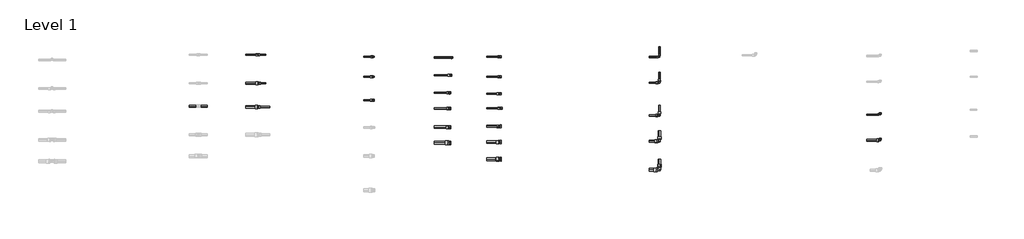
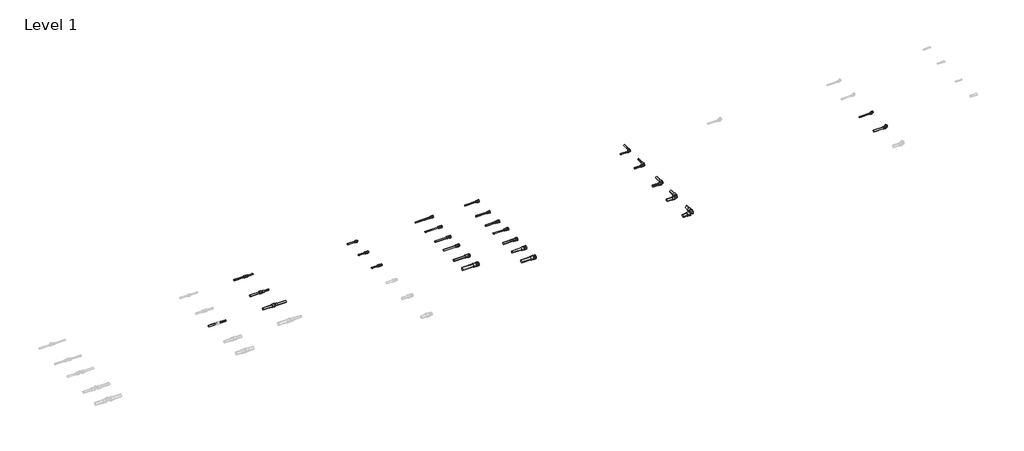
# One storey, part 27 of 78: 36 pipe segments, 26 pipe fittings.
"""IFC4 building model written with IfcOpenShell, lengths in millimetres."""

from ifc_helpers import new_model, si_unit, point, frame, frame_2d, origin, place, context, project, spatial, circle_curve, trimmed, segment, composite_curve, outline, extrude, transform, mapped, element, save
from components import pipe_fitting_bf755f27, pipe_fitting_e93012df, pipe_fitting_836a2278, pipe_fitting_b55198ad, pipe_fitting_8d4eabeb, pipe_fitting_0b32e4b0, pipe_fitting_0562571e, pipe_fitting_d14a7251, pipe_fitting_38e91122, pipe_fitting_ee510fd7, pipe_fitting_e4b23f8c, pipe_fitting_5776f994, pipe_fitting_edf19c19, pipe_fitting_f2230aa0, pipe_fitting_ea484583, pipe_fitting_a340ff43, pipe_fitting_d52baa13, pipe_fitting_c8bca06d, pipe_fitting_5bbd4ca1, pipe_fitting_80b7091b, pipe_fitting_ce7225c3, pipe_fitting_f8d70d0e, pipe_fitting_18fcccac, pipe_fitting_1e296f3b, pipe_fitting_52b87474, pipe_fitting_f7ee4d9f

model = new_model("IFC4")

# Units and contexts
model_context = context("Model", 3, world=origin())
ifc_project = project(units=[si_unit("LENGTHUNIT", "METRE", prefix="MILLI")], contexts=[model_context])

# Site, building, storey
site = spatial("IfcSite", under=ifc_project)
building = spatial("IfcBuilding", under=site)
storey = spatial("IfcBuildingStorey", under=building, Name="Level 1", Elevation=0.0)

# Pipe fittings
placement = place(None, origin())
pipe_fitting_shape = pipe_fitting_bf755f27(model_context)
element("IfcPipeFitting", 1, ObjectType="FASTLOC_Adapter with union nut LX : FSL A union nut HU", at=placement, inside=storey, context=model_context, shape_type="MappedRepresentation", body=[
    mapped(pipe_fitting_shape, transform((9302.9138788, -2429.2068389, 0.0), x_axis=(1.0, 0.0, 0.0), y_axis=(0.0, 1.0, 0.0), z_axis=(0.0, 0.0, 1.0))),
])
pipe_fitting_2_shape = pipe_fitting_e93012df(model_context)
element("IfcPipeFitting", 2, ObjectType="FASTLOC_Adapter_LX, with external thread : FSL A C external HU", at=placement, inside=storey, context=model_context, shape_type="MappedRepresentation", body=[
    mapped(pipe_fitting_2_shape, transform((7526.3785179, -1235.7057457, 0.0), x_axis=(1.0, 0.0, 0.0), y_axis=(0.0, 1.0, 0.0), z_axis=(0.0, 0.0, 1.0))),
])
pipe_fitting_3_shape = pipe_fitting_836a2278(model_context)
element("IfcPipeFitting", 3, ObjectType="FASTLOC_Adapter_LX, with internal thread : FSL A internal HU", at=placement, inside=storey, context=model_context, shape_type="MappedRepresentation", body=[
    mapped(pipe_fitting_3_shape, transform((8631.9138788, -1246.1148632, 0.0), x_axis=(1.0, 0.0, 0.0), y_axis=(0.0, 1.0, 0.0), z_axis=(0.0, 0.0, 1.0))),
])
pipe_fitting_4_shape = pipe_fitting_b55198ad(model_context)
element("IfcPipeFitting", 4, ObjectType="FASTLOC_Corner LX : FSL C LX HU", at=placement, inside=storey, context=model_context, shape_type="MappedRepresentation", body=[
    mapped(pipe_fitting_4_shape, transform((11545.4707441, -1238.8136389, 0.0), x_axis=(1.0, 0.0, 0.0), y_axis=(0.0, 1.0, 0.0), z_axis=(0.0, 0.0, 1.0))),
])
pipe_fitting_5_shape = pipe_fitting_8d4eabeb(model_context)
element("IfcPipeFitting", 5, ObjectType="FASTLOC_Elbow with female thread LX : FSL A internal HU", at=placement, inside=storey, context=model_context, shape_type="MappedRepresentation", body=[
    mapped(pipe_fitting_5_shape, transform((14636.9744513, -2044.4914884, 0.0), x_axis=(1.0, 0.0, 0.0), y_axis=(0.0, 1.0, 0.0), z_axis=(0.0, 0.0, 1.0))),
])
pipe_fitting_6_shape = pipe_fitting_0b32e4b0(model_context)
element("IfcPipeFitting", 6, ObjectType="FASTLOC_Coupling reduced LX : FSL C LX HU", at=placement, inside=storey, context=model_context, shape_type="MappedRepresentation", body=[
    mapped(pipe_fitting_6_shape, transform((5926.6928556, -1205.8821283, 0.0), x_axis=(1.0, 0.0, 0.0), y_axis=(0.0, 1.0, 0.0), z_axis=(0.0, 0.0, 1.0))),
])
pipe_fitting_7_shape = pipe_fitting_0562571e(model_context)
element("IfcPipeFitting", 7, ObjectType="FASTLOC_Coupling reduced LX : FSL C LX HU", at=placement, inside=storey, context=model_context, shape_type="MappedRepresentation", body=[
    mapped(pipe_fitting_7_shape, transform((5926.6928556, -1605.8821283, 0.0), x_axis=(1.0, 0.0, 0.0), y_axis=(0.0, 1.0, 0.0), z_axis=(0.0, 0.0, 1.0))),
])
pipe_fitting_8_shape = pipe_fitting_d14a7251(model_context)
element("IfcPipeFitting", 8, ObjectType="FASTLOC_Coupling reduced LX : FSL C LX HU", at=placement, inside=storey, context=model_context, shape_type="MappedRepresentation", body=[
    mapped(pipe_fitting_8_shape, transform((5926.6928556, -1938.3821283, 0.0), x_axis=(1.0, 0.0, 0.0), y_axis=(0.0, 1.0, 0.0), z_axis=(0.0, 0.0, 1.0))),
])
pipe_fitting_9_shape = pipe_fitting_38e91122(model_context)
element("IfcPipeFitting", 9, ObjectType="FASTLOC_Adapter_LX, with external thread : FSL A C external HU", at=placement, inside=storey, context=model_context, shape_type="MappedRepresentation", body=[
    mapped(pipe_fitting_9_shape, transform((7526.8953131, -1514.2068389, 0.0), x_axis=(1.0, 0.0, 0.0), y_axis=(0.0, 1.0, 0.0), z_axis=(0.0, 0.0, 1.0))),
])
pipe_fitting_10_shape = pipe_fitting_ee510fd7(model_context)
element("IfcPipeFitting", 10, ObjectType="FASTLOC_Adapter_LX, with external thread : FSL A C external HU", at=placement, inside=storey, context=model_context, shape_type="MappedRepresentation", body=[
    mapped(pipe_fitting_10_shape, transform((7526.8953131, -1844.2068389, 0.0), x_axis=(1.0, 0.0, 0.0), y_axis=(0.0, 1.0, 0.0), z_axis=(0.0, 0.0, 1.0))),
])
pipe_fitting_11_shape = pipe_fitting_e4b23f8c(model_context)
element("IfcPipeFitting", 11, ObjectType="FASTLOC_Corner LX : FSL C LX HU", at=placement, inside=storey, context=model_context, shape_type="MappedRepresentation", body=[
    mapped(pipe_fitting_11_shape, transform((11545.4707441, -1598.8136389, 0.0), x_axis=(1.0, 0.0, 0.0), y_axis=(0.0, 1.0, 0.0), z_axis=(0.0, 0.0, 1.0))),
])
pipe_fitting_12_shape = pipe_fitting_5776f994(model_context)
element("IfcPipeFitting", 12, ObjectType="FASTLOC_Corner LX : FSL C LX HU", at=placement, inside=storey, context=model_context, shape_type="MappedRepresentation", body=[
    mapped(pipe_fitting_12_shape, transform((11545.4707441, -2058.8136389, 0.0), x_axis=(1.0, 0.0, 0.0), y_axis=(0.0, 1.0, 0.0), z_axis=(0.0, 0.0, 1.0))),
])
pipe_fitting_13_shape = pipe_fitting_edf19c19(model_context)
element("IfcPipeFitting", 13, ObjectType="FASTLOC_Corner LX : FSL C LX HU", at=placement, inside=storey, context=model_context, shape_type="MappedRepresentation", body=[
    mapped(pipe_fitting_13_shape, transform((11545.4707441, -2418.8136389, 0.0), x_axis=(1.0, 0.0, 0.0), y_axis=(0.0, 1.0, 0.0), z_axis=(0.0, 0.0, 1.0))),
])
pipe_fitting_14_shape = pipe_fitting_f2230aa0(model_context)
element("IfcPipeFitting", 14, ObjectType="FASTLOC_Corner LX : FSL C LX HU", at=placement, inside=storey, context=model_context, shape_type="MappedRepresentation", body=[
    mapped(pipe_fitting_14_shape, transform((11545.4707441, -2818.8136389, 0.0), x_axis=(1.0, 0.0, 0.0), y_axis=(0.0, 1.0, 0.0), z_axis=(0.0, 0.0, 1.0))),
])
pipe_fitting_15_shape = pipe_fitting_ea484583(model_context)
element("IfcPipeFitting", 15, ObjectType="FASTLOC_Elbow with female thread LX : FSL A internal HU", at=placement, inside=storey, context=model_context, shape_type="MappedRepresentation", body=[
    mapped(pipe_fitting_15_shape, transform((14636.9744513, -2404.4914884, 0.0), x_axis=(1.0, 0.0, 0.0), y_axis=(0.0, 1.0, 0.0), z_axis=(0.0, 0.0, 1.0))),
])
pipe_fitting_16_shape = pipe_fitting_a340ff43(model_context)
element("IfcPipeFitting", 16, ObjectType="FASTLOC_Adapter with union nut LX : FSL A union nut HU", at=placement, inside=storey, context=model_context, shape_type="MappedRepresentation", body=[
    mapped(pipe_fitting_16_shape, transform((9302.9138788, -1514.2068389, 0.0), x_axis=(1.0, 0.0, 0.0), y_axis=(0.0, 1.0, 0.0), z_axis=(0.0, 0.0, 1.0))),
])
pipe_fitting_17_shape = pipe_fitting_d52baa13(model_context)
element("IfcPipeFitting", 17, ObjectType="FASTLOC_Adapter with union nut LX : FSL A union nut HU", at=placement, inside=storey, context=model_context, shape_type="MappedRepresentation", body=[
    mapped(pipe_fitting_17_shape, transform((9302.9138788, -1754.2068389, 0.0), x_axis=(1.0, 0.0, 0.0), y_axis=(0.0, 1.0, 0.0), z_axis=(0.0, 0.0, 1.0))),
])
pipe_fitting_18_shape = pipe_fitting_c8bca06d(model_context)
element("IfcPipeFitting", 18, ObjectType="FASTLOC_Adapter with union nut LX : FSL A union nut HU", at=placement, inside=storey, context=model_context, shape_type="MappedRepresentation", body=[
    mapped(pipe_fitting_18_shape, transform((9317.0560144, -1955.0647033, 0.0), x_axis=(1.0, 0.0, 0.0), y_axis=(0.0, 1.0, 0.0), z_axis=(0.0, 0.0, 1.0))),
])
pipe_fitting_19_shape = pipe_fitting_5bbd4ca1(model_context)
element("IfcPipeFitting", 19, ObjectType="FASTLOC_Adapter with union nut LX : FSL A union nut HU", at=placement, inside=storey, context=model_context, shape_type="MappedRepresentation", body=[
    mapped(pipe_fitting_19_shape, transform((9302.9138788, -2209.2068389, 0.0), x_axis=(1.0, 0.0, 0.0), y_axis=(0.0, 1.0, 0.0), z_axis=(0.0, 0.0, 1.0))),
])
pipe_fitting_20_shape = pipe_fitting_80b7091b(model_context)
element("IfcPipeFitting", 20, ObjectType="FASTLOC_Adapter with union nut LX : FSL A union nut HU", at=placement, inside=storey, context=model_context, shape_type="MappedRepresentation", body=[
    mapped(pipe_fitting_20_shape, transform((9302.9138788, -2669.2068389, 0.0), x_axis=(1.0, 0.0, 0.0), y_axis=(0.0, 1.0, 0.0), z_axis=(0.0, 0.0, 1.0))),
])
pipe_fitting_21_shape = pipe_fitting_ce7225c3(model_context)
element("IfcPipeFitting", 21, ObjectType="FASTLOC_Adapter with union nut LX : FSL A union nut HU", at=placement, inside=storey, context=model_context, shape_type="MappedRepresentation", body=[
    mapped(pipe_fitting_21_shape, transform((9302.9138788, -1234.2068389, 0.0), x_axis=(1.0, 0.0, 0.0), y_axis=(0.0, 1.0, 0.0), z_axis=(0.0, 0.0, 1.0))),
])
pipe_fitting_22_shape = pipe_fitting_f8d70d0e(model_context)
element("IfcPipeFitting", 22, ObjectType="FASTLOC_Adapter_LX, with internal thread : FSL A internal HU", at=placement, inside=storey, context=model_context, shape_type="MappedRepresentation", body=[
    mapped(pipe_fitting_22_shape, transform((8602.7717432, -1740.2569989, 0.0), x_axis=(1.0, 0.0, 0.0), y_axis=(0.0, 1.0, 0.0), z_axis=(0.0, 0.0, 1.0))),
])
pipe_fitting_23_shape = pipe_fitting_18fcccac(model_context)
element("IfcPipeFitting", 23, ObjectType="FASTLOC_Adapter_LX, with internal thread : FSL A internal HU", at=placement, inside=storey, context=model_context, shape_type="MappedRepresentation", body=[
    mapped(pipe_fitting_23_shape, transform((8602.7717432, -1960.2569989, 0.0), x_axis=(1.0, 0.0, 0.0), y_axis=(0.0, 1.0, 0.0), z_axis=(0.0, 0.0, 1.0))),
])
pipe_fitting_24_shape = pipe_fitting_1e296f3b(model_context)
element("IfcPipeFitting", 24, ObjectType="FASTLOC_Adapter_LX, with internal thread : FSL A internal HU", at=placement, inside=storey, context=model_context, shape_type="MappedRepresentation", body=[
    mapped(pipe_fitting_24_shape, transform((8602.7717432, -2220.2569989, 0.0), x_axis=(1.0, 0.0, 0.0), y_axis=(0.0, 1.0, 0.0), z_axis=(0.0, 0.0, 1.0))),
])
pipe_fitting_25_shape = pipe_fitting_52b87474(model_context)
element("IfcPipeFitting", 25, ObjectType="FASTLOC_Adapter_LX, with internal thread : FSL A internal HU", at=placement, inside=storey, context=model_context, shape_type="MappedRepresentation", body=[
    mapped(pipe_fitting_25_shape, transform((8602.7717432, -2440.2569989, 0.0), x_axis=(1.0, 0.0, 0.0), y_axis=(0.0, 1.0, 0.0), z_axis=(0.0, 0.0, 1.0))),
])
pipe_fitting_26_shape = pipe_fitting_f7ee4d9f(model_context)
element("IfcPipeFitting", 26, ObjectType="FASTLOC_Adapter_LX, with internal thread : FSL A internal HU", at=placement, inside=storey, context=model_context, shape_type="MappedRepresentation", body=[
    mapped(pipe_fitting_26_shape, transform((8619.5138788, -1492.5715861, 0.0), x_axis=(1.0, 0.0, 0.0), y_axis=(0.0, 1.0, 0.0), z_axis=(0.0, 0.0, 1.0))),
])

# Pipe segments
element("IfcPipeSegment", 27, ObjectType="FASTLOC LX ML HU bar", at=placement, inside=storey, context=model_context, shape_type="SweptSolid", body=[
    extrude(outline(composite_curve([segment(trimmed(circle_curve(frame_2d((-1925.8821283, 0.0)), 12.5), [point((-1938.3821283, 0.0))], [point((-1925.8821283, 12.5))], False, "CARTESIAN"), True, "CONTINUOUS"), segment(trimmed(circle_curve(frame_2d((-1925.8821283, 0.0)), 12.5), [point((-1925.8821283, 12.5))], [point((-1913.3821283, 0.0))], False, "CARTESIAN"), True, "CONTINUOUS"), segment(trimmed(circle_curve(frame_2d((-1925.8821283, 0.0)), 12.5), [point((-1913.3821283, 0.0))], [point((-1925.8821283, -12.5))], False, "CARTESIAN"), True, "CONTINUOUS"), segment(trimmed(circle_curve(frame_2d((-1925.8821283, 0.0)), 12.5), [point((-1925.8821283, -12.5))], [point((-1938.3821283, 0.0))], False, "CARTESIAN"), True, "CONTINUOUS")], self_intersect=False)), frame((5096.3790161, 0.0, 0.0), z_axis=(1.0, 0.0, 0.0), x_axis=(0.0, 1.0, 0.0)), (0.0, 0.0, 1.0), 114.2),
])
element("IfcPipeSegment", 28, ObjectType="FASTLOC LX ML HU bar", at=placement, inside=storey, context=model_context, shape_type="SweptSolid", body=[
    extrude(outline(composite_curve([segment(trimmed(circle_curve(frame_2d((-1925.8821283, 0.0)), 12.5), [point((-1913.3821283, 0.0))], [point((-1925.8821283, -12.5))], False, "CARTESIAN"), True, "CONTINUOUS"), segment(trimmed(circle_curve(frame_2d((-1925.8821283, 0.0)), 12.5), [point((-1925.8821283, -12.5))], [point((-1938.3821283, 0.0))], False, "CARTESIAN"), True, "CONTINUOUS"), segment(trimmed(circle_curve(frame_2d((-1925.8821283, 0.0)), 12.5), [point((-1938.3821283, 0.0))], [point((-1925.8821283, 12.5))], False, "CARTESIAN"), True, "CONTINUOUS"), segment(trimmed(circle_curve(frame_2d((-1925.8821283, 0.0)), 12.5), [point((-1925.8821283, 12.5))], [point((-1913.3821283, 0.0))], False, "CARTESIAN"), True, "CONTINUOUS")], self_intersect=False)), frame((4961.1790161, 0.0, 0.0), z_axis=(1.0, 0.0, 0.0), x_axis=(0.0, 1.0, 0.0)), (0.0, 0.0, 1.0), 119.2),
])
element("IfcPipeSegment", 29, ObjectType="FASTLOC LX ML HU bar", at=placement, inside=storey, context=model_context, shape_type="SweptSolid", body=[
    extrude(outline(composite_curve([segment(trimmed(circle_curve(frame_2d((-1205.8821283, 0.0)), 8.0), [point((-1213.8821283, 0.0))], [point((-1205.8821283, 8.0))], False, "CARTESIAN"), True, "CONTINUOUS"), segment(trimmed(circle_curve(frame_2d((-1205.8821283, 0.0)), 8.0), [point((-1205.8821283, 8.0))], [point((-1197.8821283, 0.0))], False, "CARTESIAN"), True, "CONTINUOUS"), segment(trimmed(circle_curve(frame_2d((-1205.8821283, 0.0)), 8.0), [point((-1197.8821283, 0.0))], [point((-1205.8821283, -8.0))], False, "CARTESIAN"), True, "CONTINUOUS"), segment(trimmed(circle_curve(frame_2d((-1205.8821283, 0.0)), 8.0), [point((-1205.8821283, -8.0))], [point((-1213.8821283, 0.0))], False, "CARTESIAN"), True, "CONTINUOUS")], self_intersect=False)), frame((5932.9928556, 0.0, 0.0), z_axis=(1.0, 0.0, 0.0), x_axis=(0.0, 1.0, 0.0)), (0.0, 0.0, 1.0), 95.0),
])
element("IfcPipeSegment", 30, ObjectType="FASTLOC LX ML HU bar", at=placement, inside=storey, context=model_context, shape_type="SweptSolid", body=[
    extrude(outline(composite_curve([segment(trimmed(circle_curve(frame_2d((-1205.8821283, 0.0)), 8.0), [point((-1197.8821283, 0.0))], [point((-1205.8821283, -8.0))], False, "CARTESIAN"), True, "CONTINUOUS"), segment(trimmed(circle_curve(frame_2d((-1205.8821283, 0.0)), 8.0), [point((-1205.8821283, -8.0))], [point((-1213.8821283, 0.0))], False, "CARTESIAN"), True, "CONTINUOUS"), segment(trimmed(circle_curve(frame_2d((-1205.8821283, 0.0)), 8.0), [point((-1213.8821283, 0.0))], [point((-1205.8821283, 8.0))], False, "CARTESIAN"), True, "CONTINUOUS"), segment(trimmed(circle_curve(frame_2d((-1205.8821283, 0.0)), 8.0), [point((-1205.8821283, 8.0))], [point((-1197.8821283, 0.0))], False, "CARTESIAN"), True, "CONTINUOUS")], self_intersect=False)), frame((5752.9928556, 0.0, 0.0), z_axis=(1.0, 0.0, 0.0), x_axis=(0.0, 1.0, 0.0)), (0.0, 0.0, 1.0), 165.0),
])
element("IfcPipeSegment", 31, ObjectType="FASTLOC LX ML HU bar", at=placement, inside=storey, context=model_context, shape_type="SweptSolid", body=[
    extrude(outline(composite_curve([segment(trimmed(circle_curve(frame_2d((-1605.8821283, 0.0)), 12.5), [point((-1593.3821283, 0.0))], [point((-1605.8821283, -12.5))], False, "CARTESIAN"), True, "CONTINUOUS"), segment(trimmed(circle_curve(frame_2d((-1605.8821283, 0.0)), 12.5), [point((-1605.8821283, -12.5))], [point((-1618.3821283, 0.0))], False, "CARTESIAN"), True, "CONTINUOUS"), segment(trimmed(circle_curve(frame_2d((-1605.8821283, 0.0)), 12.5), [point((-1618.3821283, 0.0))], [point((-1605.8821283, 12.5))], False, "CARTESIAN"), True, "CONTINUOUS"), segment(trimmed(circle_curve(frame_2d((-1605.8821283, 0.0)), 12.5), [point((-1605.8821283, 12.5))], [point((-1593.3821283, 0.0))], False, "CARTESIAN"), True, "CONTINUOUS")], self_intersect=False)), frame((5752.9928556, 0.0, 0.0), z_axis=(1.0, 0.0, 0.0), x_axis=(0.0, 1.0, 0.0)), (0.0, 0.0, 1.0), 163.9),
])
element("IfcPipeSegment", 32, ObjectType="FASTLOC LX ML HU bar", at=placement, inside=storey, context=model_context, shape_type="SweptSolid", body=[
    extrude(outline(composite_curve([segment(trimmed(circle_curve(frame_2d((-1605.8821283, 0.0)), 8.0), [point((-1613.8821283, 0.0))], [point((-1605.8821283, 8.0))], False, "CARTESIAN"), True, "CONTINUOUS"), segment(trimmed(circle_curve(frame_2d((-1605.8821283, 0.0)), 8.0), [point((-1605.8821283, 8.0))], [point((-1597.8821283, 0.0))], False, "CARTESIAN"), True, "CONTINUOUS"), segment(trimmed(circle_curve(frame_2d((-1605.8821283, 0.0)), 8.0), [point((-1597.8821283, 0.0))], [point((-1605.8821283, -8.0))], False, "CARTESIAN"), True, "CONTINUOUS"), segment(trimmed(circle_curve(frame_2d((-1605.8821283, 0.0)), 8.0), [point((-1605.8821283, -8.0))], [point((-1613.8821283, 0.0))], False, "CARTESIAN"), True, "CONTINUOUS")], self_intersect=False)), frame((5932.3928556, 0.0, 0.0), z_axis=(1.0, 0.0, 0.0), x_axis=(0.0, 1.0, 0.0)), (0.0, 0.0, 1.0), 95.6),
])
element("IfcPipeSegment", 33, ObjectType="FASTLOC LX ML HU bar", at=placement, inside=storey, context=model_context, shape_type="SweptSolid", body=[
    extrude(outline(composite_curve([segment(trimmed(circle_curve(frame_2d((-1235.7057457, 0.0)), 8.0), [point((-1227.7057457, 0.0))], [point((-1235.7057457, -8.0))], False, "CARTESIAN"), True, "CONTINUOUS"), segment(trimmed(circle_curve(frame_2d((-1235.7057457, 0.0)), 8.0), [point((-1235.7057457, -8.0))], [point((-1243.7057457, 0.0))], False, "CARTESIAN"), True, "CONTINUOUS"), segment(trimmed(circle_curve(frame_2d((-1235.7057457, 0.0)), 8.0), [point((-1243.7057457, 0.0))], [point((-1235.7057457, 8.0))], False, "CARTESIAN"), True, "CONTINUOUS"), segment(trimmed(circle_curve(frame_2d((-1235.7057457, 0.0)), 8.0), [point((-1235.7057457, 8.0))], [point((-1227.7057457, 0.0))], False, "CARTESIAN"), True, "CONTINUOUS")], self_intersect=False)), frame((7402.0785179, 0.0, 0.0), z_axis=(1.0, 0.0, 0.0), x_axis=(0.0, 1.0, 0.0)), (0.0, 0.0, 1.0), 115.4),
])
element("IfcPipeSegment", 34, ObjectType="FASTLOC LX ML HU bar", at=placement, inside=storey, context=model_context, shape_type="SweptSolid", body=[
    extrude(outline(composite_curve([segment(trimmed(circle_curve(frame_2d((-1514.2068389, 0.0)), 8.0), [point((-1506.2068389, 0.0))], [point((-1514.2068389, -8.0))], False, "CARTESIAN"), True, "CONTINUOUS"), segment(trimmed(circle_curve(frame_2d((-1514.2068389, 0.0)), 8.0), [point((-1514.2068389, -8.0))], [point((-1522.2068389, 0.0))], False, "CARTESIAN"), True, "CONTINUOUS"), segment(trimmed(circle_curve(frame_2d((-1514.2068389, 0.0)), 8.0), [point((-1522.2068389, 0.0))], [point((-1514.2068389, 8.0))], False, "CARTESIAN"), True, "CONTINUOUS"), segment(trimmed(circle_curve(frame_2d((-1514.2068389, 0.0)), 8.0), [point((-1514.2068389, 8.0))], [point((-1506.2068389, 0.0))], False, "CARTESIAN"), True, "CONTINUOUS")], self_intersect=False)), frame((7402.0785179, 0.0, 0.0), z_axis=(1.0, 0.0, 0.0), x_axis=(0.0, 1.0, 0.0)), (0.0, 0.0, 1.0), 116.1167951),
])
element("IfcPipeSegment", 35, ObjectType="FASTLOC LX ML HU bar", at=placement, inside=storey, context=model_context, shape_type="SweptSolid", body=[
    extrude(outline(composite_curve([segment(trimmed(circle_curve(frame_2d((-1844.2068389, 0.0)), 8.0), [point((-1836.2068389, 0.0))], [point((-1844.2068389, -8.0))], False, "CARTESIAN"), True, "CONTINUOUS"), segment(trimmed(circle_curve(frame_2d((-1844.2068389, 0.0)), 8.0), [point((-1844.2068389, -8.0))], [point((-1852.2068389, 0.0))], False, "CARTESIAN"), True, "CONTINUOUS"), segment(trimmed(circle_curve(frame_2d((-1844.2068389, 0.0)), 8.0), [point((-1852.2068389, 0.0))], [point((-1844.2068389, 8.0))], False, "CARTESIAN"), True, "CONTINUOUS"), segment(trimmed(circle_curve(frame_2d((-1844.2068389, 0.0)), 8.0), [point((-1844.2068389, 8.0))], [point((-1836.2068389, 0.0))], False, "CARTESIAN"), True, "CONTINUOUS")], self_intersect=False)), frame((7402.0785179, 0.0, 0.0), z_axis=(1.0, 0.0, 0.0), x_axis=(0.0, 1.0, 0.0)), (0.0, 0.0, 1.0), 115.5167951),
])
element("IfcPipeSegment", 36, ObjectType="FASTLOC LX ML HU bar", at=placement, inside=storey, context=model_context, shape_type="SweptSolid", body=[
    extrude(outline(composite_curve([segment(trimmed(circle_curve(frame_2d((-1246.1148632, 0.0)), 8.0), [point((-1238.1148632, 0.0))], [point((-1246.1148632, -8.0))], False, "CARTESIAN"), True, "CONTINUOUS"), segment(trimmed(circle_curve(frame_2d((-1246.1148632, 0.0)), 8.0), [point((-1246.1148632, -8.0))], [point((-1254.1148632, 0.0))], False, "CARTESIAN"), True, "CONTINUOUS"), segment(trimmed(circle_curve(frame_2d((-1246.1148632, 0.0)), 8.0), [point((-1254.1148632, 0.0))], [point((-1246.1148632, 8.0))], False, "CARTESIAN"), True, "CONTINUOUS"), segment(trimmed(circle_curve(frame_2d((-1246.1148632, 0.0)), 8.0), [point((-1246.1148632, 8.0))], [point((-1238.1148632, 0.0))], False, "CARTESIAN"), True, "CONTINUOUS")], self_intersect=False)), frame((8390.3717432, 0.0, 0.0), z_axis=(1.0, 0.0, 0.0), x_axis=(0.0, 1.0, 0.0)), (0.0, 0.0, 1.0), 229.1421356),
])
element("IfcPipeSegment", 37, ObjectType="FASTLOC LX ML HU bar", at=placement, inside=storey, context=model_context, shape_type="SweptSolid", body=[
    extrude(outline(composite_curve([segment(trimmed(circle_curve(frame_2d((-1238.8136389, 0.0)), 8.0), [point((-1230.8136389, 0.0))], [point((-1238.8136389, -8.0))], False, "CARTESIAN"), True, "CONTINUOUS"), segment(trimmed(circle_curve(frame_2d((-1238.8136389, 0.0)), 8.0), [point((-1238.8136389, -8.0))], [point((-1246.8136389, 0.0))], False, "CARTESIAN"), True, "CONTINUOUS"), segment(trimmed(circle_curve(frame_2d((-1238.8136389, 0.0)), 8.0), [point((-1246.8136389, 0.0))], [point((-1238.8136389, 8.0))], False, "CARTESIAN"), True, "CONTINUOUS"), segment(trimmed(circle_curve(frame_2d((-1238.8136389, 0.0)), 8.0), [point((-1238.8136389, 8.0))], [point((-1230.8136389, 0.0))], False, "CARTESIAN"), True, "CONTINUOUS")], self_intersect=False)), frame((11403.3707441, 0.0, 0.0), z_axis=(1.0, 0.0, 0.0), x_axis=(0.0, 1.0, 0.0)), (0.0, 0.0, 1.0), 120.0),
])
element("IfcPipeSegment", 38, ObjectType="FASTLOC LX ML HU bar", at=placement, inside=storey, context=model_context, shape_type="SweptSolid", body=[
    extrude(outline(composite_curve([segment(trimmed(circle_curve(frame_2d((0.0, 11545.4707441)), 8.0), [point((0.0, 11553.4707441))], [point((8.0, 11545.4707441))], False, "CARTESIAN"), True, "CONTINUOUS"), segment(trimmed(circle_curve(frame_2d((0.0, 11545.4707441)), 8.0), [point((8.0, 11545.4707441))], [point((0.0, 11537.4707441))], False, "CARTESIAN"), True, "CONTINUOUS"), segment(trimmed(circle_curve(frame_2d((0.0, 11545.4707441)), 8.0), [point((0.0, 11537.4707441))], [point((-8.0, 11545.4707441))], False, "CARTESIAN"), True, "CONTINUOUS"), segment(trimmed(circle_curve(frame_2d((0.0, 11545.4707441)), 8.0), [point((-8.0, 11545.4707441))], [point((0.0, 11553.4707441))], False, "CARTESIAN"), True, "CONTINUOUS")], self_intersect=False)), frame((0.0, -1216.7136389, 0.0), z_axis=(0.0, 1.0, 0.0), x_axis=(0.0, 0.0, 1.0)), (0.0, 0.0, 1.0), 125.0),
])
element("IfcPipeSegment", 39, ObjectType="FASTLOC LX ML HU bar", at=placement, inside=storey, context=model_context, shape_type="SweptSolid", body=[
    extrude(outline(composite_curve([segment(trimmed(circle_curve(frame_2d((-1598.8136389, 0.0)), 8.0), [point((-1590.8136389, 0.0))], [point((-1598.8136389, -8.0))], False, "CARTESIAN"), True, "CONTINUOUS"), segment(trimmed(circle_curve(frame_2d((-1598.8136389, 0.0)), 8.0), [point((-1598.8136389, -8.0))], [point((-1606.8136389, 0.0))], False, "CARTESIAN"), True, "CONTINUOUS"), segment(trimmed(circle_curve(frame_2d((-1598.8136389, 0.0)), 8.0), [point((-1606.8136389, 0.0))], [point((-1598.8136389, 8.0))], False, "CARTESIAN"), True, "CONTINUOUS"), segment(trimmed(circle_curve(frame_2d((-1598.8136389, 0.0)), 8.0), [point((-1598.8136389, 8.0))], [point((-1590.8136389, 0.0))], False, "CARTESIAN"), True, "CONTINUOUS")], self_intersect=False)), frame((11403.3707441, 0.0, 0.0), z_axis=(1.0, 0.0, 0.0), x_axis=(0.0, 1.0, 0.0)), (0.0, 0.0, 1.0), 117.5),
])
element("IfcPipeSegment", 40, ObjectType="FASTLOC LX ML HU bar", at=placement, inside=storey, context=model_context, shape_type="SweptSolid", body=[
    extrude(outline(composite_curve([segment(trimmed(circle_curve(frame_2d((0.0, 11545.4707441)), 8.0), [point((0.0, 11553.4707441))], [point((8.0, 11545.4707441))], False, "CARTESIAN"), True, "CONTINUOUS"), segment(trimmed(circle_curve(frame_2d((0.0, 11545.4707441)), 8.0), [point((8.0, 11545.4707441))], [point((0.0, 11537.4707441))], False, "CARTESIAN"), True, "CONTINUOUS"), segment(trimmed(circle_curve(frame_2d((0.0, 11545.4707441)), 8.0), [point((0.0, 11537.4707441))], [point((-8.0, 11545.4707441))], False, "CARTESIAN"), True, "CONTINUOUS"), segment(trimmed(circle_curve(frame_2d((0.0, 11545.4707441)), 8.0), [point((-8.0, 11545.4707441))], [point((0.0, 11553.4707441))], False, "CARTESIAN"), True, "CONTINUOUS")], self_intersect=False)), frame((0.0, -1574.2136389, 0.0), z_axis=(0.0, 1.0, 0.0), x_axis=(0.0, 0.0, 1.0)), (0.0, 0.0, 1.0), 122.5),
])
element("IfcPipeSegment", 41, ObjectType="FASTLOC LX ML HU bar", at=placement, inside=storey, context=model_context, shape_type="SweptSolid", body=[
    extrude(outline(composite_curve([segment(trimmed(circle_curve(frame_2d((-2058.8136389, 0.0)), 12.5), [point((-2046.3136389, 0.0))], [point((-2058.8136389, -12.5))], False, "CARTESIAN"), True, "CONTINUOUS"), segment(trimmed(circle_curve(frame_2d((-2058.8136389, 0.0)), 12.5), [point((-2058.8136389, -12.5))], [point((-2071.3136389, 0.0))], False, "CARTESIAN"), True, "CONTINUOUS"), segment(trimmed(circle_curve(frame_2d((-2058.8136389, 0.0)), 12.5), [point((-2071.3136389, 0.0))], [point((-2058.8136389, 12.5))], False, "CARTESIAN"), True, "CONTINUOUS"), segment(trimmed(circle_curve(frame_2d((-2058.8136389, 0.0)), 12.5), [point((-2058.8136389, 12.5))], [point((-2046.3136389, 0.0))], False, "CARTESIAN"), True, "CONTINUOUS")], self_intersect=False)), frame((11403.3707441, 0.0, 0.0), z_axis=(1.0, 0.0, 0.0), x_axis=(0.0, 1.0, 0.0)), (0.0, 0.0, 1.0), 113.1),
])
element("IfcPipeSegment", 42, ObjectType="FASTLOC LX ML HU bar", at=placement, inside=storey, context=model_context, shape_type="SweptSolid", body=[
    extrude(outline(composite_curve([segment(trimmed(circle_curve(frame_2d((0.0, 11545.4707441)), 12.5), [point((0.0, 11557.9707441))], [point((12.5, 11545.4707441))], False, "CARTESIAN"), True, "CONTINUOUS"), segment(trimmed(circle_curve(frame_2d((0.0, 11545.4707441)), 12.5), [point((12.5, 11545.4707441))], [point((0.0, 11532.9707441))], False, "CARTESIAN"), True, "CONTINUOUS"), segment(trimmed(circle_curve(frame_2d((0.0, 11545.4707441)), 12.5), [point((0.0, 11532.9707441))], [point((-12.5, 11545.4707441))], False, "CARTESIAN"), True, "CONTINUOUS"), segment(trimmed(circle_curve(frame_2d((0.0, 11545.4707441)), 12.5), [point((-12.5, 11545.4707441))], [point((0.0, 11557.9707441))], False, "CARTESIAN"), True, "CONTINUOUS")], self_intersect=False)), frame((0.0, -2029.8136389, 0.0), z_axis=(0.0, 1.0, 0.0), x_axis=(0.0, 0.0, 1.0)), (0.0, 0.0, 1.0), 118.1),
])
element("IfcPipeSegment", 43, ObjectType="FASTLOC LX ML HU bar", at=placement, inside=storey, context=model_context, shape_type="SweptSolid", body=[
    extrude(outline(composite_curve([segment(trimmed(circle_curve(frame_2d((-2418.8136389, 0.0)), 16.0), [point((-2402.8136389, 0.0))], [point((-2418.8136389, -16.0))], False, "CARTESIAN"), True, "CONTINUOUS"), segment(trimmed(circle_curve(frame_2d((-2418.8136389, 0.0)), 16.0), [point((-2418.8136389, -16.0))], [point((-2434.8136389, 0.0))], False, "CARTESIAN"), True, "CONTINUOUS"), segment(trimmed(circle_curve(frame_2d((-2418.8136389, 0.0)), 16.0), [point((-2434.8136389, 0.0))], [point((-2418.8136389, 16.0))], False, "CARTESIAN"), True, "CONTINUOUS"), segment(trimmed(circle_curve(frame_2d((-2418.8136389, 0.0)), 16.0), [point((-2418.8136389, 16.0))], [point((-2402.8136389, 0.0))], False, "CARTESIAN"), True, "CONTINUOUS")], self_intersect=False)), frame((11403.3707441, 0.0, 0.0), z_axis=(1.0, 0.0, 0.0), x_axis=(0.0, 1.0, 0.0)), (0.0, 0.0, 1.0), 107.1),
])
element("IfcPipeSegment", 44, ObjectType="FASTLOC LX ML HU bar", at=placement, inside=storey, context=model_context, shape_type="SweptSolid", body=[
    extrude(outline(composite_curve([segment(trimmed(circle_curve(frame_2d((0.0, 11545.4707441)), 16.0), [point((0.0, 11561.4707441))], [point((16.0, 11545.4707441))], False, "CARTESIAN"), True, "CONTINUOUS"), segment(trimmed(circle_curve(frame_2d((0.0, 11545.4707441)), 16.0), [point((16.0, 11545.4707441))], [point((0.0, 11529.4707441))], False, "CARTESIAN"), True, "CONTINUOUS"), segment(trimmed(circle_curve(frame_2d((0.0, 11545.4707441)), 16.0), [point((0.0, 11529.4707441))], [point((-16.0, 11545.4707441))], False, "CARTESIAN"), True, "CONTINUOUS"), segment(trimmed(circle_curve(frame_2d((0.0, 11545.4707441)), 16.0), [point((-16.0, 11545.4707441))], [point((0.0, 11561.4707441))], False, "CARTESIAN"), True, "CONTINUOUS")], self_intersect=False)), frame((0.0, -2383.8136389, 0.0), z_axis=(0.0, 1.0, 0.0), x_axis=(0.0, 0.0, 1.0)), (0.0, 0.0, 1.0), 112.1),
])
element("IfcPipeSegment", 45, ObjectType="FASTLOC LX ML HU bar", at=placement, inside=storey, context=model_context, shape_type="SweptSolid", body=[
    extrude(outline(composite_curve([segment(trimmed(circle_curve(frame_2d((-2818.8136389, 0.0)), 20.0), [point((-2798.8136389, 0.0))], [point((-2818.8136389, -20.0))], False, "CARTESIAN"), True, "CONTINUOUS"), segment(trimmed(circle_curve(frame_2d((-2818.8136389, 0.0)), 20.0), [point((-2818.8136389, -20.0))], [point((-2838.8136389, 0.0))], False, "CARTESIAN"), True, "CONTINUOUS"), segment(trimmed(circle_curve(frame_2d((-2818.8136389, 0.0)), 20.0), [point((-2838.8136389, 0.0))], [point((-2818.8136389, 20.0))], False, "CARTESIAN"), True, "CONTINUOUS"), segment(trimmed(circle_curve(frame_2d((-2818.8136389, 0.0)), 20.0), [point((-2818.8136389, 20.0))], [point((-2798.8136389, 0.0))], False, "CARTESIAN"), True, "CONTINUOUS")], self_intersect=False)), frame((11403.3707441, 0.0, 0.0), z_axis=(1.0, 0.0, 0.0), x_axis=(0.0, 1.0, 0.0)), (0.0, 0.0, 1.0), 97.4),
])
element("IfcPipeSegment", 46, ObjectType="FASTLOC LX ML HU bar", at=placement, inside=storey, context=model_context, shape_type="SweptSolid", body=[
    extrude(outline(composite_curve([segment(trimmed(circle_curve(frame_2d((0.0, 11545.4707441)), 20.0), [point((0.0, 11565.4707441))], [point((20.0, 11545.4707441))], False, "CARTESIAN"), True, "CONTINUOUS"), segment(trimmed(circle_curve(frame_2d((0.0, 11545.4707441)), 20.0), [point((20.0, 11545.4707441))], [point((0.0, 11525.4707441))], False, "CARTESIAN"), True, "CONTINUOUS"), segment(trimmed(circle_curve(frame_2d((0.0, 11545.4707441)), 20.0), [point((0.0, 11525.4707441))], [point((-20.0, 11545.4707441))], False, "CARTESIAN"), True, "CONTINUOUS"), segment(trimmed(circle_curve(frame_2d((0.0, 11545.4707441)), 20.0), [point((-20.0, 11545.4707441))], [point((0.0, 11565.4707441))], False, "CARTESIAN"), True, "CONTINUOUS")], self_intersect=False)), frame((0.0, -2774.1136389, 0.0), z_axis=(0.0, 1.0, 0.0), x_axis=(0.0, 0.0, 1.0)), (0.0, 0.0, 1.0), 102.4),
])
element("IfcPipeSegment", 47, ObjectType="FASTLOC LX ML HU bar", at=placement, inside=storey, context=model_context, shape_type="SweptSolid", body=[
    extrude(outline(composite_curve([segment(trimmed(circle_curve(frame_2d((-1492.5715861, 0.0)), 8.0), [point((-1484.5715861, 0.0))], [point((-1492.5715861, -8.0))], False, "CARTESIAN"), True, "CONTINUOUS"), segment(trimmed(circle_curve(frame_2d((-1492.5715861, 0.0)), 8.0), [point((-1492.5715861, -8.0))], [point((-1500.5715861, 0.0))], False, "CARTESIAN"), True, "CONTINUOUS"), segment(trimmed(circle_curve(frame_2d((-1492.5715861, 0.0)), 8.0), [point((-1500.5715861, 0.0))], [point((-1492.5715861, 8.0))], False, "CARTESIAN"), True, "CONTINUOUS"), segment(trimmed(circle_curve(frame_2d((-1492.5715861, 0.0)), 8.0), [point((-1492.5715861, 8.0))], [point((-1484.5715861, 0.0))], False, "CARTESIAN"), True, "CONTINUOUS")], self_intersect=False)), frame((8390.3717432, 0.0, 0.0), z_axis=(1.0, 0.0, 0.0), x_axis=(0.0, 1.0, 0.0)), (0.0, 0.0, 1.0), 217.4421356),
])
element("IfcPipeSegment", 48, ObjectType="FASTLOC LX ML HU bar", at=placement, inside=storey, context=model_context, shape_type="SweptSolid", body=[
    extrude(outline(composite_curve([segment(trimmed(circle_curve(frame_2d((-1740.2569989, 0.0)), 8.0), [point((-1732.2569989, 0.0))], [point((-1740.2569989, -8.0))], False, "CARTESIAN"), True, "CONTINUOUS"), segment(trimmed(circle_curve(frame_2d((-1740.2569989, 0.0)), 8.0), [point((-1740.2569989, -8.0))], [point((-1748.2569989, 0.0))], False, "CARTESIAN"), True, "CONTINUOUS"), segment(trimmed(circle_curve(frame_2d((-1740.2569989, 0.0)), 8.0), [point((-1748.2569989, 0.0))], [point((-1740.2569989, 8.0))], False, "CARTESIAN"), True, "CONTINUOUS"), segment(trimmed(circle_curve(frame_2d((-1740.2569989, 0.0)), 8.0), [point((-1740.2569989, 8.0))], [point((-1732.2569989, 0.0))], False, "CARTESIAN"), True, "CONTINUOUS")], self_intersect=False)), frame((8390.3717432, 0.0, 0.0), z_axis=(1.0, 0.0, 0.0), x_axis=(0.0, 1.0, 0.0)), (0.0, 0.0, 1.0), 199.1),
])
element("IfcPipeSegment", 49, ObjectType="FASTLOC LX ML HU bar", at=placement, inside=storey, context=model_context, shape_type="SweptSolid", body=[
    extrude(outline(composite_curve([segment(trimmed(circle_curve(frame_2d((-1960.2569989, 0.0)), 12.5), [point((-1947.7569989, 0.0))], [point((-1960.2569989, -12.5))], False, "CARTESIAN"), True, "CONTINUOUS"), segment(trimmed(circle_curve(frame_2d((-1960.2569989, 0.0)), 12.5), [point((-1960.2569989, -12.5))], [point((-1972.7569989, 0.0))], False, "CARTESIAN"), True, "CONTINUOUS"), segment(trimmed(circle_curve(frame_2d((-1960.2569989, 0.0)), 12.5), [point((-1972.7569989, 0.0))], [point((-1960.2569989, 12.5))], False, "CARTESIAN"), True, "CONTINUOUS"), segment(trimmed(circle_curve(frame_2d((-1960.2569989, 0.0)), 12.5), [point((-1960.2569989, 12.5))], [point((-1947.7569989, 0.0))], False, "CARTESIAN"), True, "CONTINUOUS")], self_intersect=False)), frame((8390.3717432, 0.0, 0.0), z_axis=(1.0, 0.0, 0.0), x_axis=(0.0, 1.0, 0.0)), (0.0, 0.0, 1.0), 199.5),
])
element("IfcPipeSegment", 50, ObjectType="FASTLOC LX ML HU bar", at=placement, inside=storey, context=model_context, shape_type="SweptSolid", body=[
    extrude(outline(composite_curve([segment(trimmed(circle_curve(frame_2d((-2220.2569989, 0.0)), 16.0), [point((-2204.2569989, 0.0))], [point((-2220.2569989, -16.0))], False, "CARTESIAN"), True, "CONTINUOUS"), segment(trimmed(circle_curve(frame_2d((-2220.2569989, 0.0)), 16.0), [point((-2220.2569989, -16.0))], [point((-2236.2569989, 0.0))], False, "CARTESIAN"), True, "CONTINUOUS"), segment(trimmed(circle_curve(frame_2d((-2220.2569989, 0.0)), 16.0), [point((-2236.2569989, 0.0))], [point((-2220.2569989, 16.0))], False, "CARTESIAN"), True, "CONTINUOUS"), segment(trimmed(circle_curve(frame_2d((-2220.2569989, 0.0)), 16.0), [point((-2220.2569989, 16.0))], [point((-2204.2569989, 0.0))], False, "CARTESIAN"), True, "CONTINUOUS")], self_intersect=False)), frame((8390.3717432, 0.0, 0.0), z_axis=(1.0, 0.0, 0.0), x_axis=(0.0, 1.0, 0.0)), (0.0, 0.0, 1.0), 197.9),
])
element("IfcPipeSegment", 51, ObjectType="FASTLOC LX ML HU bar", at=placement, inside=storey, context=model_context, shape_type="SweptSolid", body=[
    extrude(outline(composite_curve([segment(trimmed(circle_curve(frame_2d((-2440.2569989, 0.0)), 20.0), [point((-2420.2569989, 0.0))], [point((-2440.2569989, -20.0))], False, "CARTESIAN"), True, "CONTINUOUS"), segment(trimmed(circle_curve(frame_2d((-2440.2569989, 0.0)), 20.0), [point((-2440.2569989, -20.0))], [point((-2460.2569989, 0.0))], False, "CARTESIAN"), True, "CONTINUOUS"), segment(trimmed(circle_curve(frame_2d((-2440.2569989, 0.0)), 20.0), [point((-2460.2569989, 0.0))], [point((-2440.2569989, 20.0))], False, "CARTESIAN"), True, "CONTINUOUS"), segment(trimmed(circle_curve(frame_2d((-2440.2569989, 0.0)), 20.0), [point((-2440.2569989, 20.0))], [point((-2420.2569989, 0.0))], False, "CARTESIAN"), True, "CONTINUOUS")], self_intersect=False)), frame((8390.3717432, 0.0, 0.0), z_axis=(1.0, 0.0, 0.0), x_axis=(0.0, 1.0, 0.0)), (0.0, 0.0, 1.0), 192.4),
])
element("IfcPipeSegment", 52, ObjectType="FASTLOC LX ML HU bar", at=placement, inside=storey, context=model_context, shape_type="SweptSolid", body=[
    extrude(outline(composite_curve([segment(trimmed(circle_curve(frame_2d((-1514.2068389, 0.0)), 8.0), [point((-1506.2068389, 0.0))], [point((-1514.2068389, -8.0))], False, "CARTESIAN"), True, "CONTINUOUS"), segment(trimmed(circle_curve(frame_2d((-1514.2068389, 0.0)), 8.0), [point((-1514.2068389, -8.0))], [point((-1522.2068389, 0.0))], False, "CARTESIAN"), True, "CONTINUOUS"), segment(trimmed(circle_curve(frame_2d((-1514.2068389, 0.0)), 8.0), [point((-1522.2068389, 0.0))], [point((-1514.2068389, 8.0))], False, "CARTESIAN"), True, "CONTINUOUS"), segment(trimmed(circle_curve(frame_2d((-1514.2068389, 0.0)), 8.0), [point((-1514.2068389, 8.0))], [point((-1506.2068389, 0.0))], False, "CARTESIAN"), True, "CONTINUOUS")], self_intersect=False)), frame((9123.9138788, 0.0, 0.0), z_axis=(1.0, 0.0, 0.0), x_axis=(0.0, 1.0, 0.0)), (0.0, 0.0, 1.0), 170.0),
])
element("IfcPipeSegment", 53, ObjectType="FASTLOC LX ML HU bar", at=placement, inside=storey, context=model_context, shape_type="SweptSolid", body=[
    extrude(outline(composite_curve([segment(trimmed(circle_curve(frame_2d((-1754.2068389, 0.0)), 8.0), [point((-1746.2068389, 0.0))], [point((-1754.2068389, -8.0))], False, "CARTESIAN"), True, "CONTINUOUS"), segment(trimmed(circle_curve(frame_2d((-1754.2068389, 0.0)), 8.0), [point((-1754.2068389, -8.0))], [point((-1762.2068389, 0.0))], False, "CARTESIAN"), True, "CONTINUOUS"), segment(trimmed(circle_curve(frame_2d((-1754.2068389, 0.0)), 8.0), [point((-1762.2068389, 0.0))], [point((-1754.2068389, 8.0))], False, "CARTESIAN"), True, "CONTINUOUS"), segment(trimmed(circle_curve(frame_2d((-1754.2068389, 0.0)), 8.0), [point((-1754.2068389, 8.0))], [point((-1746.2068389, 0.0))], False, "CARTESIAN"), True, "CONTINUOUS")], self_intersect=False)), frame((9123.9138788, 0.0, 0.0), z_axis=(1.0, 0.0, 0.0), x_axis=(0.0, 1.0, 0.0)), (0.0, 0.0, 1.0), 170.0),
])
element("IfcPipeSegment", 54, ObjectType="FASTLOC LX ML HU bar", at=placement, inside=storey, context=model_context, shape_type="SweptSolid", body=[
    extrude(outline(composite_curve([segment(trimmed(circle_curve(frame_2d((-2209.2068389, 0.0)), 12.5), [point((-2196.7068389, 0.0))], [point((-2209.2068389, -12.5))], False, "CARTESIAN"), True, "CONTINUOUS"), segment(trimmed(circle_curve(frame_2d((-2209.2068389, 0.0)), 12.5), [point((-2209.2068389, -12.5))], [point((-2221.7068389, 0.0))], False, "CARTESIAN"), True, "CONTINUOUS"), segment(trimmed(circle_curve(frame_2d((-2209.2068389, 0.0)), 12.5), [point((-2221.7068389, 0.0))], [point((-2209.2068389, 12.5))], False, "CARTESIAN"), True, "CONTINUOUS"), segment(trimmed(circle_curve(frame_2d((-2209.2068389, 0.0)), 12.5), [point((-2209.2068389, 12.5))], [point((-2196.7068389, 0.0))], False, "CARTESIAN"), True, "CONTINUOUS")], self_intersect=False)), frame((9123.9138788, 0.0, 0.0), z_axis=(1.0, 0.0, 0.0), x_axis=(0.0, 1.0, 0.0)), (0.0, 0.0, 1.0), 168.7),
])
element("IfcPipeSegment", 55, ObjectType="FASTLOC LX ML HU bar", at=placement, inside=storey, context=model_context, shape_type="SweptSolid", body=[
    extrude(outline(composite_curve([segment(trimmed(circle_curve(frame_2d((-2429.2068389, 0.0)), 16.0), [point((-2413.2068389, 0.0))], [point((-2429.2068389, -16.0))], False, "CARTESIAN"), True, "CONTINUOUS"), segment(trimmed(circle_curve(frame_2d((-2429.2068389, 0.0)), 16.0), [point((-2429.2068389, -16.0))], [point((-2445.2068389, 0.0))], False, "CARTESIAN"), True, "CONTINUOUS"), segment(trimmed(circle_curve(frame_2d((-2429.2068389, 0.0)), 16.0), [point((-2445.2068389, 0.0))], [point((-2429.2068389, 16.0))], False, "CARTESIAN"), True, "CONTINUOUS"), segment(trimmed(circle_curve(frame_2d((-2429.2068389, 0.0)), 16.0), [point((-2429.2068389, 16.0))], [point((-2413.2068389, 0.0))], False, "CARTESIAN"), True, "CONTINUOUS")], self_intersect=False)), frame((9123.9138788, 0.0, 0.0), z_axis=(1.0, 0.0, 0.0), x_axis=(0.0, 1.0, 0.0)), (0.0, 0.0, 1.0), 167.5),
])
element("IfcPipeSegment", 56, ObjectType="FASTLOC LX ML HU bar", at=placement, inside=storey, context=model_context, shape_type="SweptSolid", body=[
    extrude(outline(composite_curve([segment(trimmed(circle_curve(frame_2d((-2669.2068389, 0.0)), 20.0), [point((-2649.2068389, 0.0))], [point((-2669.2068389, -20.0))], False, "CARTESIAN"), True, "CONTINUOUS"), segment(trimmed(circle_curve(frame_2d((-2669.2068389, 0.0)), 20.0), [point((-2669.2068389, -20.0))], [point((-2689.2068389, 0.0))], False, "CARTESIAN"), True, "CONTINUOUS"), segment(trimmed(circle_curve(frame_2d((-2669.2068389, 0.0)), 20.0), [point((-2689.2068389, 0.0))], [point((-2669.2068389, 20.0))], False, "CARTESIAN"), True, "CONTINUOUS"), segment(trimmed(circle_curve(frame_2d((-2669.2068389, 0.0)), 20.0), [point((-2669.2068389, 20.0))], [point((-2649.2068389, 0.0))], False, "CARTESIAN"), True, "CONTINUOUS")], self_intersect=False)), frame((9123.9138788, 0.0, 0.0), z_axis=(1.0, 0.0, 0.0), x_axis=(0.0, 1.0, 0.0)), (0.0, 0.0, 1.0), 167.5),
])
element("IfcPipeSegment", 57, ObjectType="FASTLOC LX ML HU bar", at=placement, inside=storey, context=model_context, shape_type="SweptSolid", body=[
    extrude(outline(composite_curve([segment(trimmed(circle_curve(frame_2d((-1938.3821283, 0.0)), 16.0), [point((-1922.3821283, 0.0))], [point((-1938.3821283, -16.0))], False, "CARTESIAN"), True, "CONTINUOUS"), segment(trimmed(circle_curve(frame_2d((-1938.3821283, 0.0)), 16.0), [point((-1938.3821283, -16.0))], [point((-1954.3821283, 0.0))], False, "CARTESIAN"), True, "CONTINUOUS"), segment(trimmed(circle_curve(frame_2d((-1938.3821283, 0.0)), 16.0), [point((-1954.3821283, 0.0))], [point((-1938.3821283, 16.0))], False, "CARTESIAN"), True, "CONTINUOUS"), segment(trimmed(circle_curve(frame_2d((-1938.3821283, 0.0)), 16.0), [point((-1938.3821283, 16.0))], [point((-1922.3821283, 0.0))], False, "CARTESIAN"), True, "CONTINUOUS")], self_intersect=False)), frame((5752.9928556, 0.0, 0.0), z_axis=(1.0, 0.0, 0.0), x_axis=(0.0, 1.0, 0.0)), (0.0, 0.0, 1.0), 161.3),
])
element("IfcPipeSegment", 58, ObjectType="FASTLOC LX ML HU bar", at=placement, inside=storey, context=model_context, shape_type="SweptSolid", body=[
    extrude(outline(composite_curve([segment(trimmed(circle_curve(frame_2d((-1938.3821283, 0.0)), 12.5), [point((-1950.8821283, 0.0))], [point((-1938.3821283, 12.5))], False, "CARTESIAN"), True, "CONTINUOUS"), segment(trimmed(circle_curve(frame_2d((-1938.3821283, 0.0)), 12.5), [point((-1938.3821283, 12.5))], [point((-1925.8821283, 0.0))], False, "CARTESIAN"), True, "CONTINUOUS"), segment(trimmed(circle_curve(frame_2d((-1938.3821283, 0.0)), 12.5), [point((-1925.8821283, 0.0))], [point((-1938.3821283, -12.5))], False, "CARTESIAN"), True, "CONTINUOUS"), segment(trimmed(circle_curve(frame_2d((-1938.3821283, 0.0)), 12.5), [point((-1938.3821283, -12.5))], [point((-1950.8821283, 0.0))], False, "CARTESIAN"), True, "CONTINUOUS")], self_intersect=False)), frame((5932.4928556, 0.0, 0.0), z_axis=(1.0, 0.0, 0.0), x_axis=(0.0, 1.0, 0.0)), (0.0, 0.0, 1.0), 155.1),
])
element("IfcPipeSegment", 59, ObjectType="FASTLOC LX ML HU bar", at=placement, inside=storey, context=model_context, shape_type="SweptSolid", body=[
    extrude(outline(composite_curve([segment(trimmed(circle_curve(frame_2d((-1955.0647033, 0.0)), 8.0), [point((-1947.0647033, 0.0))], [point((-1955.0647033, -8.0))], False, "CARTESIAN"), True, "CONTINUOUS"), segment(trimmed(circle_curve(frame_2d((-1955.0647033, 0.0)), 8.0), [point((-1955.0647033, -8.0))], [point((-1963.0647033, 0.0))], False, "CARTESIAN"), True, "CONTINUOUS"), segment(trimmed(circle_curve(frame_2d((-1955.0647033, 0.0)), 8.0), [point((-1963.0647033, 0.0))], [point((-1955.0647033, 8.0))], False, "CARTESIAN"), True, "CONTINUOUS"), segment(trimmed(circle_curve(frame_2d((-1955.0647033, 0.0)), 8.0), [point((-1955.0647033, 8.0))], [point((-1947.0647033, 0.0))], False, "CARTESIAN"), True, "CONTINUOUS")], self_intersect=False)), frame((9123.9138788, 0.0, 0.0), z_axis=(1.0, 0.0, 0.0), x_axis=(0.0, 1.0, 0.0)), (0.0, 0.0, 1.0), 184.1421356),
])
element("IfcPipeSegment", 60, ObjectType="FASTLOC LX ML HU bar", at=placement, inside=storey, context=model_context, shape_type="SweptSolid", body=[
    extrude(outline(composite_curve([segment(trimmed(circle_curve(frame_2d((-2044.4914884, 0.0)), 8.0), [point((-2036.4914884, 0.0))], [point((-2044.4914884, -8.0))], False, "CARTESIAN"), True, "CONTINUOUS"), segment(trimmed(circle_curve(frame_2d((-2044.4914884, 0.0)), 8.0), [point((-2044.4914884, -8.0))], [point((-2052.4914884, 0.0))], False, "CARTESIAN"), True, "CONTINUOUS"), segment(trimmed(circle_curve(frame_2d((-2044.4914884, 0.0)), 8.0), [point((-2052.4914884, 0.0))], [point((-2044.4914884, 8.0))], False, "CARTESIAN"), True, "CONTINUOUS"), segment(trimmed(circle_curve(frame_2d((-2044.4914884, 0.0)), 8.0), [point((-2044.4914884, 8.0))], [point((-2036.4914884, 0.0))], False, "CARTESIAN"), True, "CONTINUOUS")], self_intersect=False)), frame((14446.7744513, 0.0, 0.0), z_axis=(1.0, 0.0, 0.0), x_axis=(0.0, 1.0, 0.0)), (0.0, 0.0, 1.0), 170.0),
])
element("IfcPipeSegment", 61, ObjectType="FASTLOC LX ML HU bar", at=placement, inside=storey, context=model_context, shape_type="SweptSolid", body=[
    extrude(outline(composite_curve([segment(trimmed(circle_curve(frame_2d((-2404.4914884, 0.0)), 12.5), [point((-2391.9914884, 0.0))], [point((-2404.4914884, -12.5))], False, "CARTESIAN"), True, "CONTINUOUS"), segment(trimmed(circle_curve(frame_2d((-2404.4914884, 0.0)), 12.5), [point((-2404.4914884, -12.5))], [point((-2416.9914884, 0.0))], False, "CARTESIAN"), True, "CONTINUOUS"), segment(trimmed(circle_curve(frame_2d((-2404.4914884, 0.0)), 12.5), [point((-2416.9914884, 0.0))], [point((-2404.4914884, 12.5))], False, "CARTESIAN"), True, "CONTINUOUS"), segment(trimmed(circle_curve(frame_2d((-2404.4914884, 0.0)), 12.5), [point((-2404.4914884, 12.5))], [point((-2391.9914884, 0.0))], False, "CARTESIAN"), True, "CONTINUOUS")], self_intersect=False)), frame((14446.7744513, 0.0, 0.0), z_axis=(1.0, 0.0, 0.0), x_axis=(0.0, 1.0, 0.0)), (0.0, 0.0, 1.0), 163.2),
])
element("IfcPipeSegment", 62, ObjectType="FASTLOC LX ML HU bar", at=placement, inside=storey, context=model_context, shape_type="SweptSolid", body=[
    extrude(outline(composite_curve([segment(trimmed(circle_curve(frame_2d((-1234.2068389, 0.0)), 8.0), [point((-1226.2068389, 0.0))], [point((-1234.2068389, -8.0))], False, "CARTESIAN"), True, "CONTINUOUS"), segment(trimmed(circle_curve(frame_2d((-1234.2068389, 0.0)), 8.0), [point((-1234.2068389, -8.0))], [point((-1242.2068389, 0.0))], False, "CARTESIAN"), True, "CONTINUOUS"), segment(trimmed(circle_curve(frame_2d((-1234.2068389, 0.0)), 8.0), [point((-1242.2068389, 0.0))], [point((-1234.2068389, 8.0))], False, "CARTESIAN"), True, "CONTINUOUS"), segment(trimmed(circle_curve(frame_2d((-1234.2068389, 0.0)), 8.0), [point((-1234.2068389, 8.0))], [point((-1226.2068389, 0.0))], False, "CARTESIAN"), True, "CONTINUOUS")], self_intersect=False)), frame((9123.9138788, 0.0, 0.0), z_axis=(1.0, 0.0, 0.0), x_axis=(0.0, 1.0, 0.0)), (0.0, 0.0, 1.0), 170.0),
])

save(model, "model.ifc")
